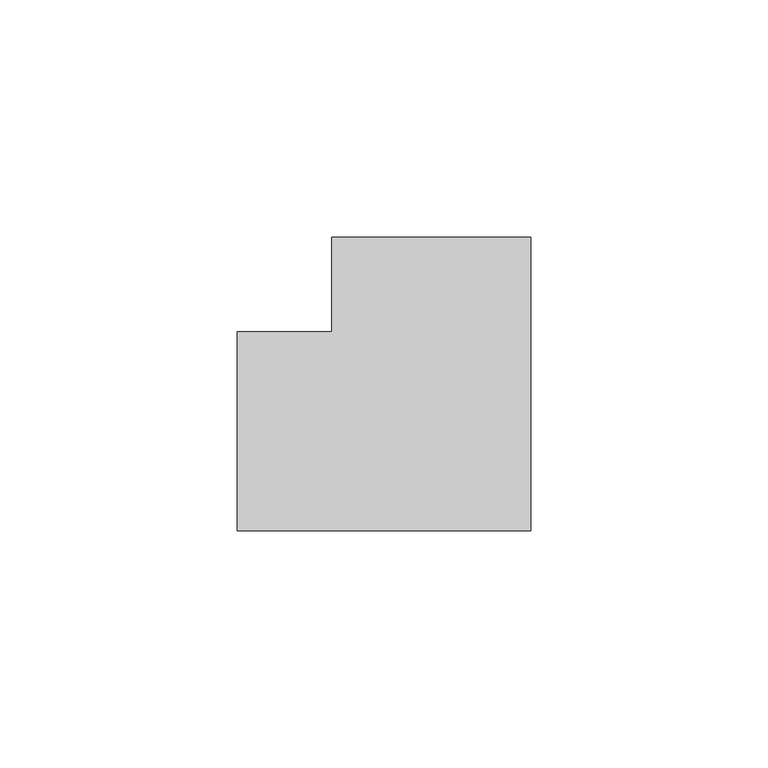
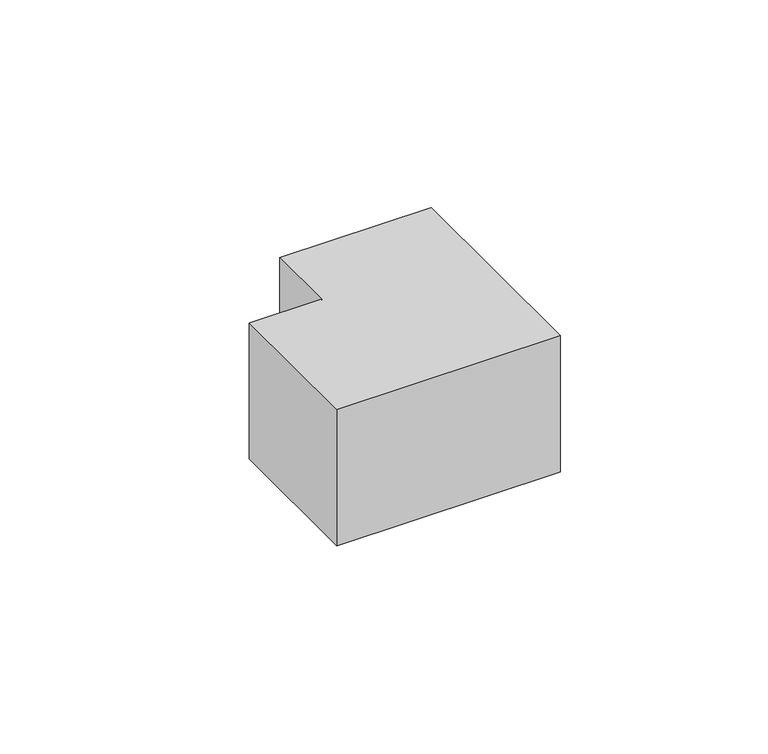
"""IFC4 building model written with IfcOpenShell, lengths in millimetres: duct fitting geometry, КНС_Угол_DKC : Угол внешний."""

from ifc_helpers import new_model, si_unit, frame, origin, place, context, project, spatial, polyline, outline, extrude, source, transform, mapped, element, save


def duct_fitting_9a85774a(model_context):
    return source(origin(), model_context, "Body", "SweptSolid", [
        extrude(outline(polyline([(-21.0, 41.0), (21.0, 41.0), (21.0, -21.0), (-41.0, -21.0), (-41.0, 21.0), (-21.0, 21.0), (-21.0, 41.0)])), frame((0.0, 0.0, -20.0), z_axis=(0.0, 0.0, 1.0), x_axis=(1.0, 0.0, 0.0)), (0.0, 0.0, 1.0), 40.0),
    ])


if __name__ == "__main__":
    model = new_model("IFC4")
    model_context = context("Model", 3, world=origin())
    ifc_project = project(units=[si_unit("LENGTHUNIT", "METRE", prefix="MILLI")], contexts=[model_context])
    site = spatial("IfcSite", under=ifc_project)
    building = spatial("IfcBuilding", under=site)
    placement = place(None, origin())
    duct_fitting_shape = duct_fitting_9a85774a(model_context)
    element("IfcDuctFitting", 1, ObjectType="КНС_Угол_DKC : Угол внешний", at=placement, inside=building, context=model_context, shape_type="MappedRepresentation", body=[
        mapped(duct_fitting_shape, transform((0.0, 0.0, 0.0), x_axis=(1.0, 0.0, 0.0), y_axis=(0.0, 1.0, 0.0), z_axis=(0.0, 0.0, 1.0))),
    ])
    save(model, "model.ifc")
